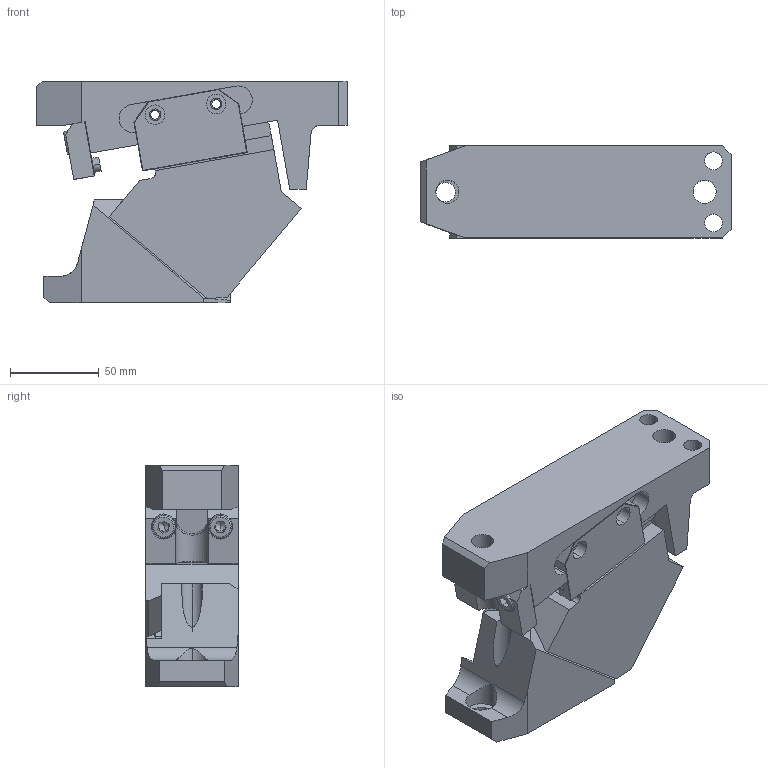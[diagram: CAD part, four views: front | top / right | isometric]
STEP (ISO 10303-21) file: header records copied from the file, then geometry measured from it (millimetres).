
FILE_DESCRIPTION (( 'STEP AP203' ), '1' );
FILE_NAME ('CLD052.40.step', '2014-05-05T08:34:37', ( '' ), ( '' ), 'SwSTEP 2.0', 'SolidWorks 2013', '' );
FILE_SCHEMA (( 'CONFIG_CONTROL_DESIGN' ));
Length unit declared in the file: millimetre
Products named in the file (4): CLD05240-01 CAM BASE; CLD05240-02 CAM SLIDER; CLD05240-03 CAM DRIVER; CLD052.40
Assembly tree (3 placements, depth 2):
  CLD052.40
    CLD05240-01 CAM BASE
    CLD05240-02 CAM SLIDER
    CLD05240-03 CAM DRIVER
Bounding box: 175 x 52 x 125 mm (x, y, z)
Volume: 661825.4 mm3; surface area: 115834.4 mm2
Topology: 3 solids, 7 shells, 365 faces, 950 edges, 603 vertices
Faces by surface type: plane 223, cylinder 119, cone 14, torus 9
Entity records: 11650 total; most frequent: CARTESIAN_POINT 2194, DIRECTION 1899, ORIENTED_EDGE 1880, EDGE_CURVE 940, AXIS2_PLACEMENT_3D 634, VECTOR 631, LINE 631, VERTEX_POINT 603
